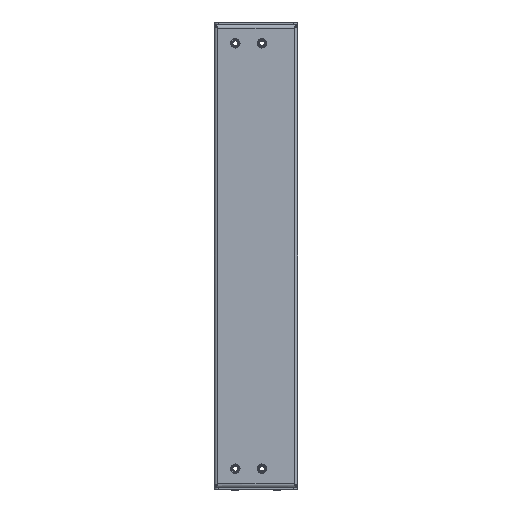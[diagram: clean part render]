
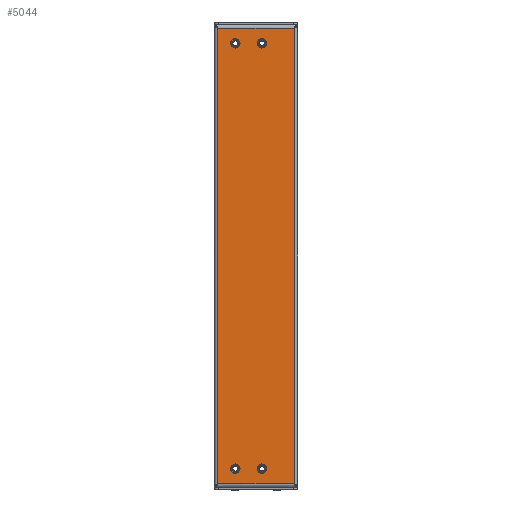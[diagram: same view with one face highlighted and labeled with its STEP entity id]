
A CAD part, front view. The second image highlights one B-rep face of the part: STEP entity #5044.
In plain terms, the highlighted planar face has unit normal (0, -1, 0).
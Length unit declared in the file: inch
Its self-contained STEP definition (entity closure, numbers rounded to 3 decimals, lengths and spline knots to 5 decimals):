
#218=DIRECTION('',(0.,0.,1.));
#219=VECTOR('',#218,21.444);
#220=CARTESIAN_POINT('',(3.766,0.,0.174));
#221=LINE('',#220,#219);
#312=DIRECTION('',(1.,0.,0.));
#313=VECTOR('',#312,3.592);
#314=CARTESIAN_POINT('',(0.174,0.,21.618));
#315=LINE('',#314,#313);
#541=DIRECTION('',(0.,0.,1.));
#542=VECTOR('',#541,21.444);
#543=CARTESIAN_POINT('',(0.174,0.,0.174));
#544=LINE('',#543,#542);
#555=CARTESIAN_POINT('',(1.,0.,0.896));
#556=DIRECTION('',(0.,-1.,0.));
#557=DIRECTION('',(0.,0.,-1.));
#558=AXIS2_PLACEMENT_3D('',#555,#556,#557);
#563=CARTESIAN_POINT('',(1.,0.,0.896));
#564=DIRECTION('',(0.,-1.,0.));
#565=DIRECTION('',(0.,0.,1.));
#566=AXIS2_PLACEMENT_3D('',#563,#564,#565);
#571=CARTESIAN_POINT('',(2.25,0.,0.896));
#572=DIRECTION('',(0.,-1.,0.));
#573=DIRECTION('',(0.,0.,-1.));
#574=AXIS2_PLACEMENT_3D('',#571,#572,#573);
#579=CARTESIAN_POINT('',(2.25,0.,0.896));
#580=DIRECTION('',(0.,-1.,0.));
#581=DIRECTION('',(0.,0.,1.));
#582=AXIS2_PLACEMENT_3D('',#579,#580,#581);
#587=CARTESIAN_POINT('',(2.25,0.,20.896));
#588=DIRECTION('',(0.,-1.,0.));
#589=DIRECTION('',(0.,0.,-1.));
#590=AXIS2_PLACEMENT_3D('',#587,#588,#589);
#595=CARTESIAN_POINT('',(2.25,0.,20.896));
#596=DIRECTION('',(0.,-1.,0.));
#597=DIRECTION('',(0.,0.,1.));
#598=AXIS2_PLACEMENT_3D('',#595,#596,#597);
#603=CARTESIAN_POINT('',(1.,0.,20.896));
#604=DIRECTION('',(0.,-1.,0.));
#605=DIRECTION('',(0.,0.,-1.));
#606=AXIS2_PLACEMENT_3D('',#603,#604,#605);
#611=CARTESIAN_POINT('',(1.,0.,20.896));
#612=DIRECTION('',(0.,-1.,0.));
#613=DIRECTION('',(0.,0.,1.));
#614=AXIS2_PLACEMENT_3D('',#611,#612,#613);
#648=DIRECTION('',(1.,0.,0.));
#649=VECTOR('',#648,3.592);
#650=CARTESIAN_POINT('',(0.174,0.,0.174));
#651=LINE('',#650,#649);
#3645=CARTESIAN_POINT('',(3.766,0.,0.174));
#3646=CARTESIAN_POINT('',(3.766,0.,21.618));
#3647=VERTEX_POINT('',#3645);
#3648=VERTEX_POINT('',#3646);
#3649=CARTESIAN_POINT('',(0.174,0.,0.174));
#3650=CARTESIAN_POINT('',(0.174,0.,21.618));
#3651=VERTEX_POINT('',#3649);
#3652=VERTEX_POINT('',#3650);
#3765=CARTESIAN_POINT('',(1.,0.,0.724));
#3766=CARTESIAN_POINT('',(1.,0.,1.068));
#3767=VERTEX_POINT('',#3765);
#3768=VERTEX_POINT('',#3766);
#3769=CARTESIAN_POINT('',(2.25,0.,0.724));
#3770=CARTESIAN_POINT('',(2.25,0.,1.068));
#3771=VERTEX_POINT('',#3769);
#3772=VERTEX_POINT('',#3770);
#3773=CARTESIAN_POINT('',(2.25,0.,20.724));
#3774=CARTESIAN_POINT('',(2.25,0.,21.068));
#3775=VERTEX_POINT('',#3773);
#3776=VERTEX_POINT('',#3774);
#3777=CARTESIAN_POINT('',(1.,0.,20.724));
#3778=CARTESIAN_POINT('',(1.,0.,21.068));
#3779=VERTEX_POINT('',#3777);
#3780=VERTEX_POINT('',#3778);
#5008=CARTESIAN_POINT('',(0.,0.,0.));
#5009=DIRECTION('',(0.,-1.,0.));
#5010=DIRECTION('',(1.,0.,0.));
#5011=AXIS2_PLACEMENT_3D('',#5008,#5009,#5010);
#5012=PLANE('',#5011);
#5013=ORIENTED_EDGE('',*,*,#4701,.T.);
#5014=ORIENTED_EDGE('',*,*,#4506,.F.);
#5016=ORIENTED_EDGE('',*,*,#5015,.F.);
#5017=ORIENTED_EDGE('',*,*,#4999,.T.);
#5018=EDGE_LOOP('',(#5013,#5014,#5016,#5017));
#5019=FACE_OUTER_BOUND('',#5018,.F.);
#5021=ORIENTED_EDGE('',*,*,#5020,.T.);
#5023=ORIENTED_EDGE('',*,*,#5022,.T.);
#5024=EDGE_LOOP('',(#5021,#5023));
#5025=FACE_BOUND('',#5024,.F.);
#5027=ORIENTED_EDGE('',*,*,#5026,.T.);
#5029=ORIENTED_EDGE('',*,*,#5028,.T.);
#5030=EDGE_LOOP('',(#5027,#5029));
#5031=FACE_BOUND('',#5030,.F.);
#5033=ORIENTED_EDGE('',*,*,#5032,.T.);
#5035=ORIENTED_EDGE('',*,*,#5034,.T.);
#5036=EDGE_LOOP('',(#5033,#5035));
#5037=FACE_BOUND('',#5036,.F.);
#5039=ORIENTED_EDGE('',*,*,#5038,.T.);
#5041=ORIENTED_EDGE('',*,*,#5040,.T.);
#5042=EDGE_LOOP('',(#5039,#5041));
#5043=FACE_BOUND('',#5042,.F.);
#559=CIRCLE('',#558,0.172);
#567=CIRCLE('',#566,0.172);
#575=CIRCLE('',#574,0.172);
#583=CIRCLE('',#582,0.172);
#591=CIRCLE('',#590,0.172);
#599=CIRCLE('',#598,0.172);
#607=CIRCLE('',#606,0.172);
#615=CIRCLE('',#614,0.172);
#4506=EDGE_CURVE('',#3647,#3648,#221,.T.);
#4701=EDGE_CURVE('',#3652,#3648,#315,.T.);
#4999=EDGE_CURVE('',#3651,#3652,#544,.T.);
#5015=EDGE_CURVE('',#3651,#3647,#651,.T.);
#5020=EDGE_CURVE('',#3767,#3768,#559,.T.);
#5022=EDGE_CURVE('',#3768,#3767,#567,.T.);
#5026=EDGE_CURVE('',#3771,#3772,#575,.T.);
#5028=EDGE_CURVE('',#3772,#3771,#583,.T.);
#5032=EDGE_CURVE('',#3775,#3776,#591,.T.);
#5034=EDGE_CURVE('',#3776,#3775,#599,.T.);
#5038=EDGE_CURVE('',#3779,#3780,#607,.T.);
#5040=EDGE_CURVE('',#3780,#3779,#615,.T.);
#5044=ADVANCED_FACE('',(#5019,#5025,#5031,#5037,#5043),#5012,.T.);
